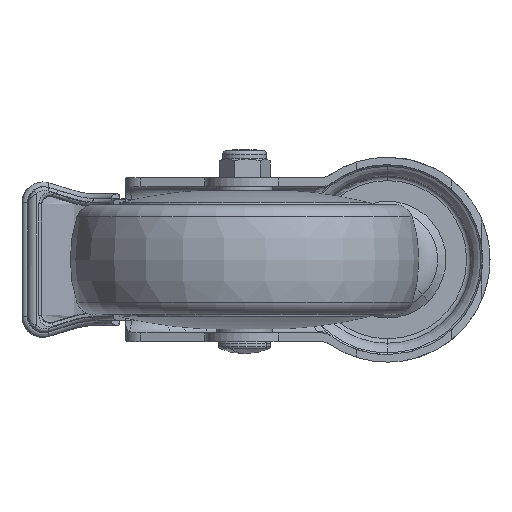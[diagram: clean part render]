
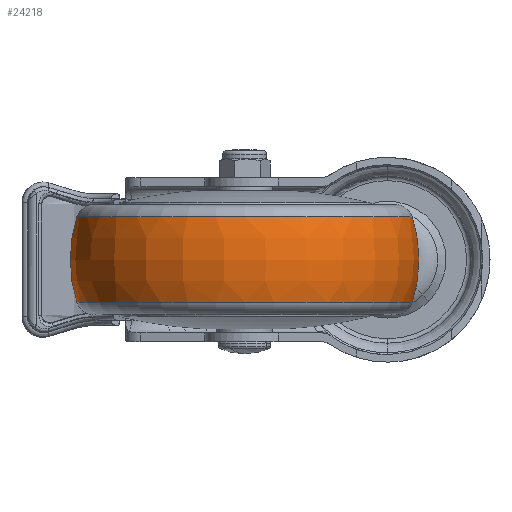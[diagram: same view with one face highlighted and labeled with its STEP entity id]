
A CAD part, front view. The second image highlights one B-rep face of the part: STEP entity #24218.
In plain terms, the highlighted toroidal (fillet/blend) face has major radius 9.765 mm and minor radius 40.235 mm.
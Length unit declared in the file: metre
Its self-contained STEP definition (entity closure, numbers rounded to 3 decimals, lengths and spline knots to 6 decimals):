
#1937 = ORIENTED_EDGE ( 'NONE', *, *, #13552, .T. ) ;
#2114 = DIRECTION ( 'NONE',  ( 0., 0., -1. ) ) ;
#2153 = CIRCLE ( 'NONE', #12800, 0.048082 ) ;
#2245 = CARTESIAN_POINT ( 'NONE',  ( -0.041, -0.078271, 0. ) ) ;
#2723 = CARTESIAN_POINT ( 'NONE',  ( -0.031235, -0.078271, 0. ) ) ;
#3525 = AXIS2_PLACEMENT_3D ( 'NONE', #2245, #6767, #18465 ) ;
#3966 = DIRECTION ( 'NONE',  ( -1., 0., 0. ) ) ;
#5008 = AXIS2_PLACEMENT_3D ( 'NONE', #12746, #20704, #18863 ) ;
#5034 = VERTEX_POINT ( 'NONE', #12718 ) ;
#6005 = CARTESIAN_POINT ( 'NONE',  ( 0.007082, -0.078271, 0.012275 ) ) ;
#6767 = DIRECTION ( 'NONE',  ( 0., 0., -1. ) ) ;
#6927 = ORIENTED_EDGE ( 'NONE', *, *, #12671, .F. ) ;
#7278 = VERTEX_POINT ( 'NONE', #15151 ) ;
#7829 = VERTEX_POINT ( 'NONE', #6005 ) ;
#7933 = CIRCLE ( 'NONE', #10898, 0.048082 ) ;
#8756 = CARTESIAN_POINT ( 'NONE',  ( -0.089082, -0.078271, 0.012275 ) ) ;
#9806 = EDGE_CURVE ( 'NONE', #5034, #7278, #7933, .T. ) ;
#10197 = DIRECTION ( 'NONE',  ( 0., 0., -1. ) ) ;
#10898 = AXIS2_PLACEMENT_3D ( 'NONE', #21798, #2114, #12106 ) ;
#12106 = DIRECTION ( 'NONE',  ( -1., 0., 0. ) ) ;
#12352 = FACE_OUTER_BOUND ( 'NONE', #12925, .T. ) ;
#12671 = EDGE_CURVE ( 'NONE', #7829, #5034, #20387, .T. ) ;
#12718 = CARTESIAN_POINT ( 'NONE',  ( 0.007082, -0.078271, -0.012275 ) ) ;
#12746 = CARTESIAN_POINT ( 'NONE',  ( -0.050765, -0.078271, 0. ) ) ;
#12800 = AXIS2_PLACEMENT_3D ( 'NONE', #16184, #10197, #3966 ) ;
#12925 = EDGE_LOOP ( 'NONE', ( #6927, #1937, #26103, #18001 ) ) ;
#13552 = EDGE_CURVE ( 'NONE', #7829, #25246, #2153, .T. ) ;
#14447 = AXIS2_PLACEMENT_3D ( 'NONE', #2723, #23053, #22795 ) ;
#14987 = TOROIDAL_SURFACE ( 'NONE', #3525, 0.009765, 0.040235 ) ;
#15151 = CARTESIAN_POINT ( 'NONE',  ( -0.089082, -0.078271, -0.012275 ) ) ;
#16184 = CARTESIAN_POINT ( 'NONE',  ( -0.041, -0.078271, 0.012275 ) ) ;
#16874 = EDGE_CURVE ( 'NONE', #25246, #7278, #21983, .T. ) ;
#18001 = ORIENTED_EDGE ( 'NONE', *, *, #9806, .F. ) ;
#18465 = DIRECTION ( 'NONE',  ( -1., 0., 0. ) ) ;
#18863 = DIRECTION ( 'NONE',  ( 0., 0., -1. ) ) ;
#20387 = CIRCLE ( 'NONE', #14447, 0.040235 ) ;
#20704 = DIRECTION ( 'NONE',  ( 0., -1., 0. ) ) ;
#21798 = CARTESIAN_POINT ( 'NONE',  ( -0.041, -0.078271, -0.012275 ) ) ;
#21983 = CIRCLE ( 'NONE', #5008, 0.040235 ) ;
#22795 = DIRECTION ( 'NONE',  ( -1., 0., 0. ) ) ;
#23053 = DIRECTION ( 'NONE',  ( 0., 1., 0. ) ) ;
#24218 = ADVANCED_FACE ( 'NONE', ( #12352 ), #14987, .T. ) ;
#25246 = VERTEX_POINT ( 'NONE', #8756 ) ;
#26103 = ORIENTED_EDGE ( 'NONE', *, *, #16874, .T. ) ;
